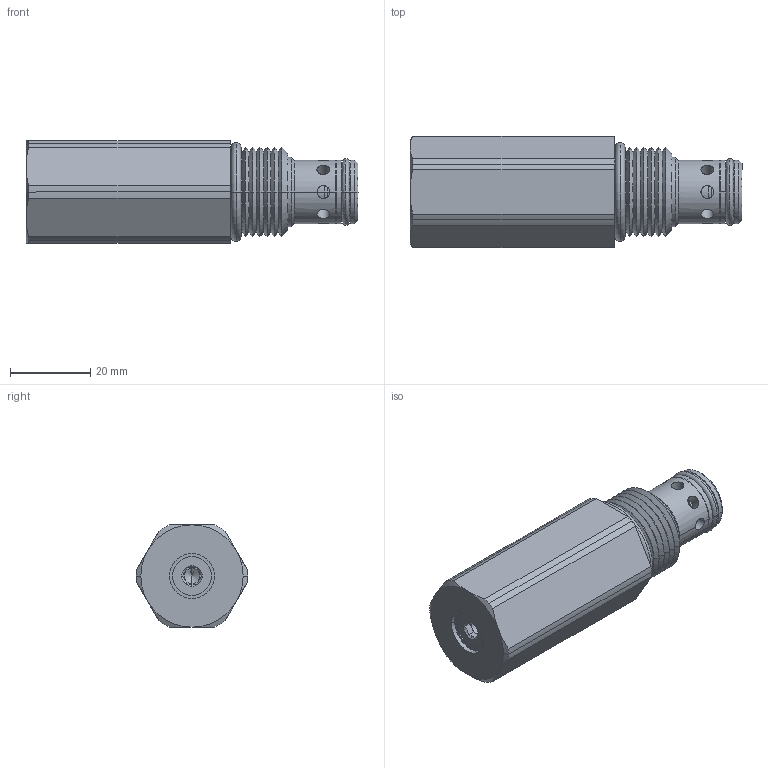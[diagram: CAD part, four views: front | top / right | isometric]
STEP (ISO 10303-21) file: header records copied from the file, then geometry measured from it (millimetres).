
FILE_DESCRIPTION((''),'2;1');
FILE_NAME('U:\Solid model CD\Solid model full\Mechanical\STEP\DERWP0I-3D Full.stp','2008-07-29T09:03:15',('Dan'),(''),'Autodesk Inventor 9','Autodesk Inventor 9','');
FILE_SCHEMA(('AUTOMOTIVE_DESIGN { 1 0 10303 214 1 1 1 1 }'));
Length unit declared in the file: inch
Products named in the file (5): DERWP0I-3D Full; DERWP0I-3D Full1; DERWP0I-3D Full2; DERWP0I-3D Full3; DERWP0I-3D Full4
Assembly tree (4 placements, depth 2):
  DERWP0I-3D Full
    DERWP0I-3D Full1
    DERWP0I-3D Full2
    DERWP0I-3D Full3
    DERWP0I-3D Full4
Bounding box: 82.5 x 27.69 x 25.4 mm (x, y, z)
Volume: 35728.4 mm3; surface area: 9585.1 mm2
Topology: 4 solids, 4 shells, 153 faces, 364 edges, 227 vertices
Faces by surface type: cylinder 64, cone 44, plane 31, bspline 10, torus 4
Entity records: 5252 total; most frequent: CARTESIAN_POINT 1601, DIRECTION 758, ORIENTED_EDGE 724, EDGE_CURVE 362, AXIS2_PLACEMENT_3D 312, VERTEX_POINT 227, EDGE_LOOP 185, CIRCLE 160
